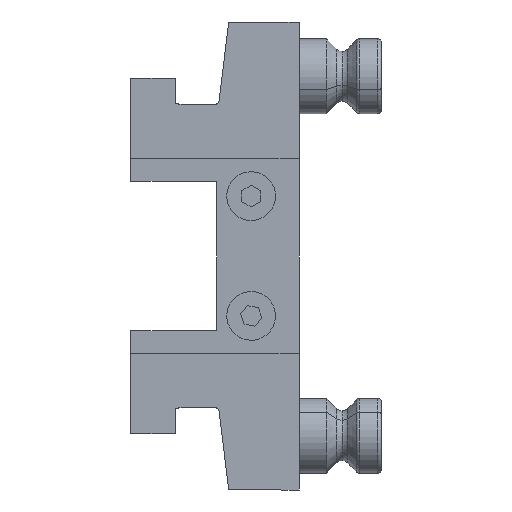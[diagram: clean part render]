
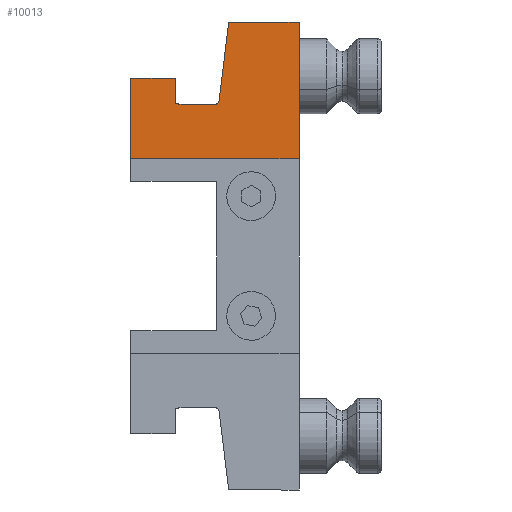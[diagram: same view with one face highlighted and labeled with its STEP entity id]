
A CAD part, left-side view. The second image highlights one B-rep face of the part: STEP entity #10013.
In plain terms, the highlighted planar face has unit normal (-1, 0, 0).
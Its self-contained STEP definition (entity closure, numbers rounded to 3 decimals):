
#1256 = DIRECTION ( 'NONE',  ( 0., 0., -1. ) ) ;
#1285 = VERTEX_POINT ( 'NONE', #19710 ) ;
#1292 = VECTOR ( 'NONE', #20886, 1000. ) ;
#1407 = CARTESIAN_POINT ( 'NONE',  ( 20., 0., 26. ) ) ;
#1695 = DIRECTION ( 'NONE',  ( 0., 1., 0. ) ) ;
#1846 = VERTEX_POINT ( 'NONE', #15754 ) ;
#2063 = LINE ( 'NONE', #20587, #6146 ) ;
#2142 = CARTESIAN_POINT ( 'NONE',  ( 20., 45.2, 47.5 ) ) ;
#2182 = ORIENTED_EDGE ( 'NONE', *, *, #9753, .T. ) ;
#2437 = LINE ( 'NONE', #14524, #20380 ) ;
#3081 = CARTESIAN_POINT ( 'NONE',  ( 20., 31.8, 40.5 ) ) ;
#3104 = VECTOR ( 'NONE', #1256, 1000. ) ;
#3413 = CARTESIAN_POINT ( 'NONE',  ( 20., 33., 47.5 ) ) ;
#3582 = VERTEX_POINT ( 'NONE', #5609 ) ;
#4023 = CARTESIAN_POINT ( 'NONE',  ( 20., 45., -62.8 ) ) ;
#4066 = EDGE_CURVE ( 'NONE', #11441, #1846, #10026, .T. ) ;
#4394 = DIRECTION ( 'NONE',  ( 0., 1., 0. ) ) ;
#4405 = ORIENTED_EDGE ( 'NONE', *, *, #10828, .F. ) ;
#4715 = DIRECTION ( 'NONE',  ( 0., 0., -1. ) ) ;
#4892 = DIRECTION ( 'NONE',  ( 1., 0., 0. ) ) ;
#5132 = VECTOR ( 'NONE', #6364, 1000. ) ;
#5238 = LINE ( 'NONE', #15463, #12319 ) ;
#5609 = CARTESIAN_POINT ( 'NONE',  ( 20., 45., 26. ) ) ;
#6146 = VECTOR ( 'NONE', #10786, 1000. ) ;
#6364 = DIRECTION ( 'NONE',  ( 0., 0., -1. ) ) ;
#6990 = VERTEX_POINT ( 'NONE', #16877 ) ;
#7228 = ORIENTED_EDGE ( 'NONE', *, *, #14875, .T. ) ;
#7575 = EDGE_CURVE ( 'NONE', #21780, #11441, #5238, .T. ) ;
#7909 = ORIENTED_EDGE ( 'NONE', *, *, #15264, .T. ) ;
#8290 = LINE ( 'NONE', #15099, #8395 ) ;
#8335 = DIRECTION ( 'NONE',  ( 0., 0., 1. ) ) ;
#8395 = VECTOR ( 'NONE', #1695, 1000. ) ;
#8452 = DIRECTION ( 'NONE',  ( 0., 0.122, -0.993 ) ) ;
#8704 = ORIENTED_EDGE ( 'NONE', *, *, #15373, .T. ) ;
#9060 = CARTESIAN_POINT ( 'NONE',  ( 20., 31.8, 41.5 ) ) ;
#9167 = VERTEX_POINT ( 'NONE', #12532 ) ;
#9363 = VECTOR ( 'NONE', #4715, 1000. ) ;
#9753 = EDGE_CURVE ( 'NONE', #15361, #21297, #14729, .T. ) ;
#9878 = EDGE_CURVE ( 'NONE', #21256, #6990, #15048, .T. ) ;
#9929 = CARTESIAN_POINT ( 'NONE',  ( 20., 21.392, 41.378 ) ) ;
#10013 = ADVANCED_FACE ( 'NONE', ( #13787 ), #15263, .T. ) ;
#10026 = CIRCLE ( 'NONE', #13913, 1. ) ;
#10574 = DIRECTION ( 'NONE',  ( 0., -1., 0. ) ) ;
#10774 = ORIENTED_EDGE ( 'NONE', *, *, #4066, .T. ) ;
#10786 = DIRECTION ( 'NONE',  ( 0., 1., 0. ) ) ;
#10828 = EDGE_CURVE ( 'NONE', #6990, #21297, #12540, .T. ) ;
#10890 = ORIENTED_EDGE ( 'NONE', *, *, #9878, .F. ) ;
#11441 = VERTEX_POINT ( 'NONE', #9929 ) ;
#11469 = CARTESIAN_POINT ( 'NONE',  ( 20., 33., 47.5 ) ) ;
#11667 = VERTEX_POINT ( 'NONE', #1407 ) ;
#12319 = VECTOR ( 'NONE', #8452, 1000. ) ;
#12532 = CARTESIAN_POINT ( 'NONE',  ( 20., 0., 62.5 ) ) ;
#12540 = LINE ( 'NONE', #21008, #16078 ) ;
#13723 = EDGE_CURVE ( 'NONE', #1846, #15361, #2063, .T. ) ;
#13787 = FACE_OUTER_BOUND ( 'NONE', #19831, .T. ) ;
#13913 = AXIS2_PLACEMENT_3D ( 'NONE', #15351, #4892, #8335 ) ;
#13986 = ORIENTED_EDGE ( 'NONE', *, *, #18082, .F. ) ;
#14044 = DIRECTION ( 'NONE',  ( 0., 0., 1. ) ) ;
#14205 = LINE ( 'NONE', #2142, #1292 ) ;
#14524 = CARTESIAN_POINT ( 'NONE',  ( 20., 18.955, 62.5 ) ) ;
#14534 = ORIENTED_EDGE ( 'NONE', *, *, #13723, .T. ) ;
#14558 = CARTESIAN_POINT ( 'NONE',  ( 20., 0., -62.8 ) ) ;
#14667 = ORIENTED_EDGE ( 'NONE', *, *, #18220, .F. ) ;
#14670 = LINE ( 'NONE', #14558, #3104 ) ;
#14729 = CIRCLE ( 'NONE', #16837, 1. ) ;
#14875 = EDGE_CURVE ( 'NONE', #21256, #1285, #14205, .T. ) ;
#15048 = LINE ( 'NONE', #11469, #5132 ) ;
#15099 = CARTESIAN_POINT ( 'NONE',  ( 20., 45., 26. ) ) ;
#15263 = PLANE ( 'NONE',  #18614 ) ;
#15264 = EDGE_CURVE ( 'NONE', #9167, #21780, #2437, .T. ) ;
#15351 = CARTESIAN_POINT ( 'NONE',  ( 20., 22.385, 41.5 ) ) ;
#15361 = VERTEX_POINT ( 'NONE', #3081 ) ;
#15373 = EDGE_CURVE ( 'NONE', #1285, #3582, #16823, .T. ) ;
#15463 = CARTESIAN_POINT ( 'NONE',  ( 20., 18.762, 62.8 ) ) ;
#15613 = CARTESIAN_POINT ( 'NONE',  ( 20., 32.4, 40.7 ) ) ;
#15754 = CARTESIAN_POINT ( 'NONE',  ( 20., 22.385, 40.5 ) ) ;
#15810 = CARTESIAN_POINT ( 'NONE',  ( 20., 18.799, 62.5 ) ) ;
#15935 = DIRECTION ( 'NONE',  ( 1., 0., 0. ) ) ;
#16078 = VECTOR ( 'NONE', #10574, 1000. ) ;
#16823 = LINE ( 'NONE', #20285, #9363 ) ;
#16837 = AXIS2_PLACEMENT_3D ( 'NONE', #9060, #15935, #14044 ) ;
#16877 = CARTESIAN_POINT ( 'NONE',  ( 20., 33., 40.7 ) ) ;
#17690 = DIRECTION ( 'NONE',  ( 0., 0., 1. ) ) ;
#18082 = EDGE_CURVE ( 'NONE', #9167, #11667, #14670, .T. ) ;
#18220 = EDGE_CURVE ( 'NONE', #11667, #3582, #8290, .T. ) ;
#18614 = AXIS2_PLACEMENT_3D ( 'NONE', #4023, #21155, #17690 ) ;
#18803 = ORIENTED_EDGE ( 'NONE', *, *, #7575, .T. ) ;
#19710 = CARTESIAN_POINT ( 'NONE',  ( 20., 45., 47.5 ) ) ;
#19831 = EDGE_LOOP ( 'NONE', ( #7909, #18803, #10774, #14534, #2182, #4405, #10890, #7228, #8704, #14667, #13986 ) ) ;
#20285 = CARTESIAN_POINT ( 'NONE',  ( 20., 45., -62.8 ) ) ;
#20380 = VECTOR ( 'NONE', #4394, 1000. ) ;
#20587 = CARTESIAN_POINT ( 'NONE',  ( 20., 21.5, 40.5 ) ) ;
#20886 = DIRECTION ( 'NONE',  ( 0., 1., 0. ) ) ;
#21008 = CARTESIAN_POINT ( 'NONE',  ( 20., 33., 40.7 ) ) ;
#21155 = DIRECTION ( 'NONE',  ( -1., 0., 0. ) ) ;
#21256 = VERTEX_POINT ( 'NONE', #3413 ) ;
#21297 = VERTEX_POINT ( 'NONE', #15613 ) ;
#21780 = VERTEX_POINT ( 'NONE', #15810 ) ;
